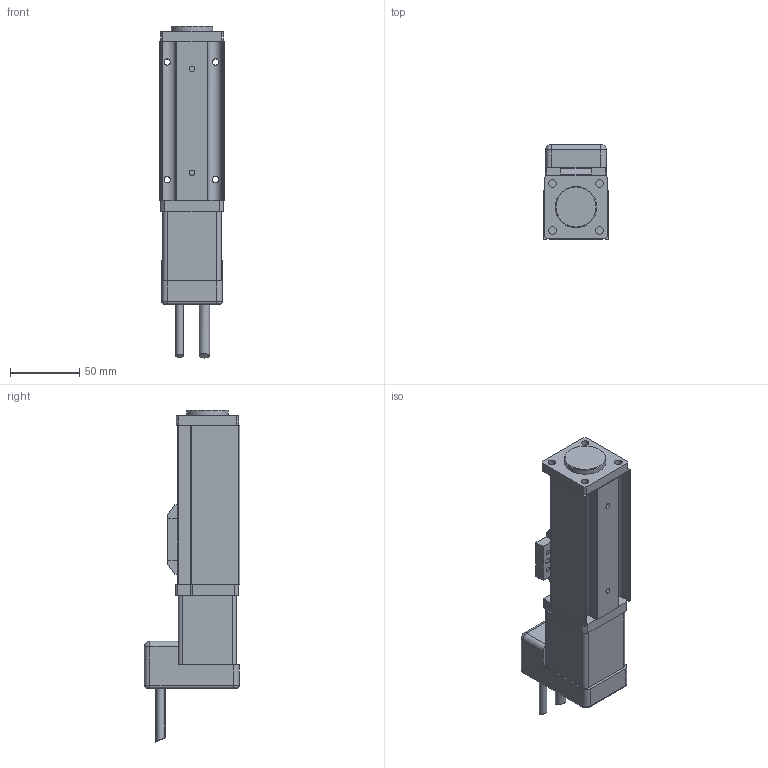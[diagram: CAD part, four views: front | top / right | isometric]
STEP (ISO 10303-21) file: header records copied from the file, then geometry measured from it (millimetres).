
FILE_DESCRIPTION(/* description */ ('Alibre Inc.'),/* implementation_level */ '2;1');
FILE_NAME(/* name */ 'export0',/* time_stamp */ '2011-08-02T10:15:21-04:00',/* author */ (''),/* organization */ (''),/* preprocessor_version */ 'ST-DEVELOPER v10',/* originating_system */ 'Alibre',/* authorisation */ '');
FILE_SCHEMA (('CONFIG_CONTROL_DESIGN'));
Length unit declared in the file: centimetre
Products named in the file (3): ID_1; ID_2
Bounding box: 47 x 68.8 x 239.76 mm (x, y, z)
Volume: 389832.3 mm3; surface area: 60324.7 mm2
Topology: 2 solids, 2 shells, 180 faces, 469 edges, 301 vertices
Faces by surface type: plane 98, cylinder 71, cone 5, torus 4, sphere 2
Full cylindrical faces by diameter (mm): 2.459 x3, 2.5 x1, 3.242 x4, 4 x4, 4.5 x4, 5 x1, 5.5 x5, 7.5 x1, 8 x4, 12 x1, 22 x1, 30 x1
Entity records: 5408 total; most frequent: CARTESIAN_POINT 988, ORIENTED_EDGE 830, DIRECTION 782, EDGE_CURVE 415, AXIS2_PLACEMENT_3D 313, VERTEX_POINT 288, FACE_BOUND 259, EDGE_LOOP 255
